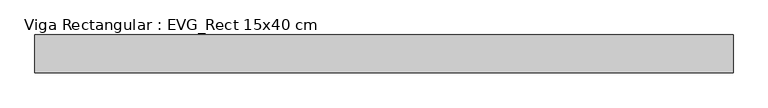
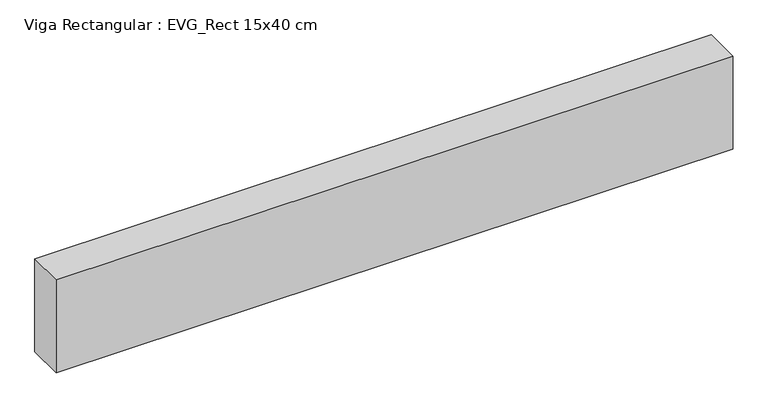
"""IFC4 building model written with IfcOpenShell, lengths in millimetres: beam geometry, Viga Rectangular : EVG_Rect 15x40 cm."""

from ifc_helpers import new_model, si_unit, frame, origin, place, context, project, spatial, polyline, outline, extrude, source, transform, mapped, element, save


def viga_rectangular_evg_rect_15x40_cm_c549a8b6(model_context):
    return source(origin(), model_context, "Body", "SweptSolid", [
        extrude(outline(polyline([(1375.0, 75.0), (1375.0, -75.0), (-1375.0, -75.0), (-1375.0, 75.0), (1375.0, 75.0)])), frame((0.0, 0.0, -400.0), z_axis=(0.0, 0.0, 1.0), x_axis=(1.0, 0.0, 0.0)), (0.0, 0.0, 1.0), 400.0),
    ])


if __name__ == "__main__":
    model = new_model("IFC4")
    model_context = context("Model", 3, world=origin())
    ifc_project = project(units=[si_unit("LENGTHUNIT", "METRE", prefix="MILLI")], contexts=[model_context])
    site = spatial("IfcSite", under=ifc_project)
    building = spatial("IfcBuilding", under=site)
    placement = place(None, origin())
    viga_rectangular_evg_rect_15x40_cm_shape = viga_rectangular_evg_rect_15x40_cm_c549a8b6(model_context)
    element("IfcBeam", 1, ObjectType="Viga Rectangular : EVG_Rect 15x40 cm", at=placement, inside=building, context=model_context, shape_type="MappedRepresentation", body=[
        mapped(viga_rectangular_evg_rect_15x40_cm_shape, transform((0.0, 0.0, 0.0), x_axis=(1.0, 0.0, 0.0), y_axis=(0.0, 1.0, 0.0), z_axis=(0.0, 0.0, 1.0))),
    ])
    save(model, "model.ifc")
